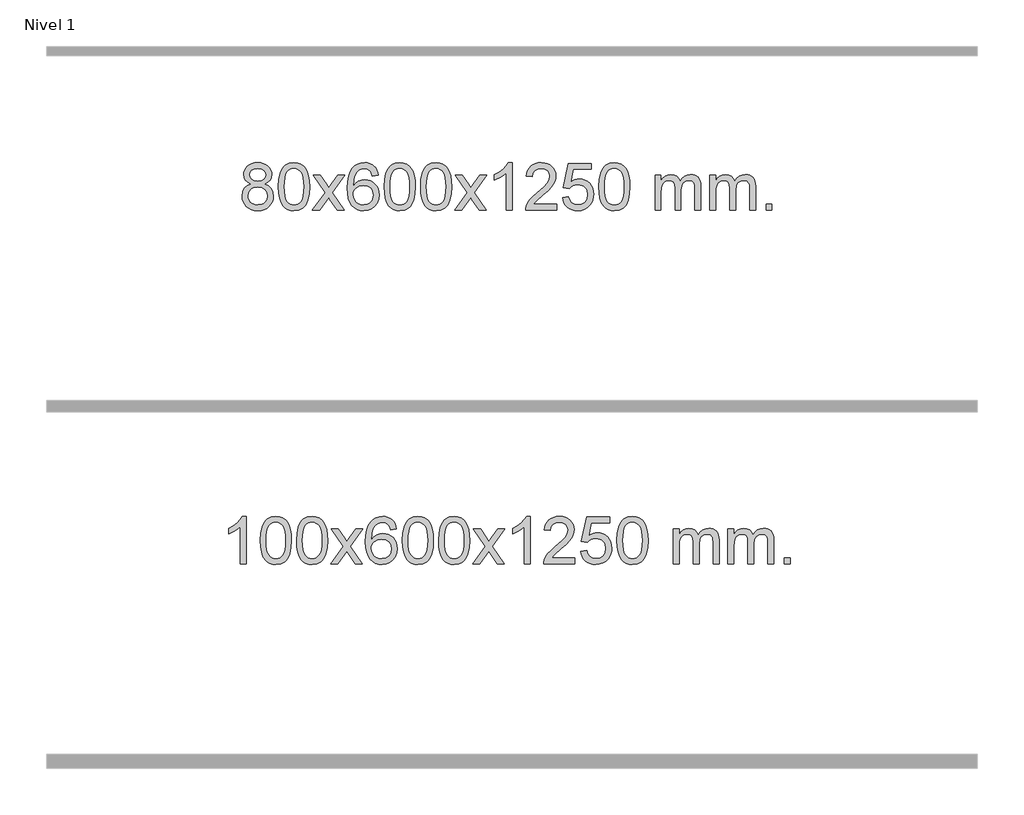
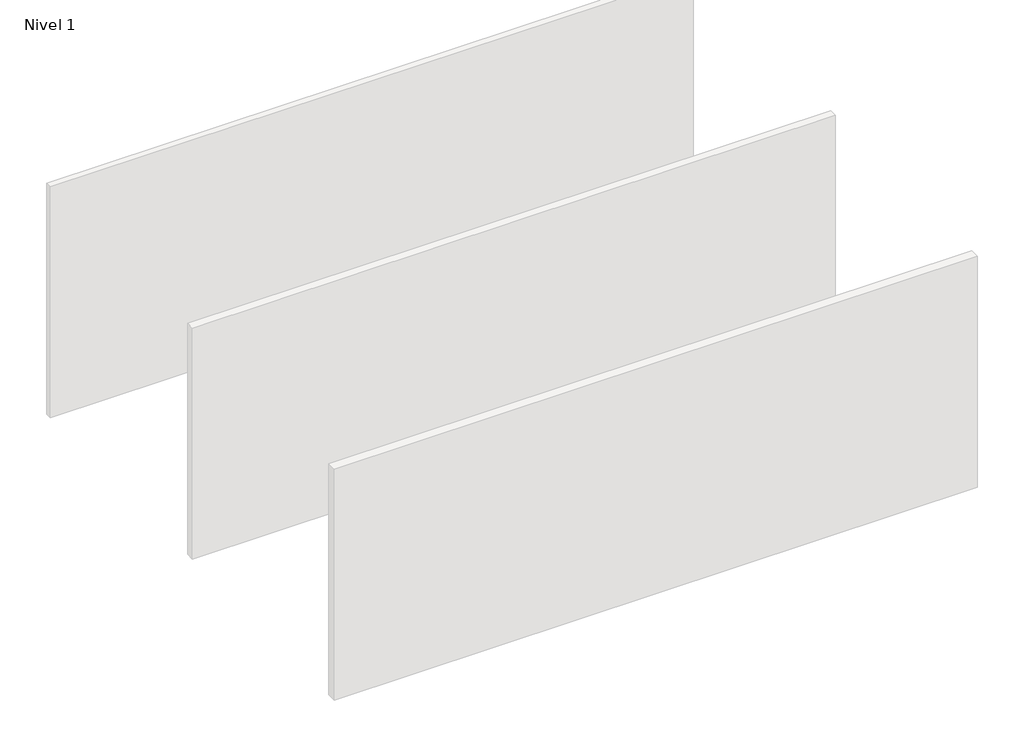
# One storey, part 2 of 4: 2 proxies.
"""IFC4 building model written with IfcOpenShell, lengths in millimetres."""

from ifc_helpers import new_model, si_unit, origin, origin_with_axes, place, context, project, spatial, polyline, outline, extrude, element, save

model = new_model("IFC4")

# Units and contexts
model_context = context("Model", 3, world=origin())
ifc_project = project(units=[si_unit("LENGTHUNIT", "METRE", prefix="MILLI")], contexts=[model_context])

# Site, building, storey
site = spatial("IfcSite", under=ifc_project)
building = spatial("IfcBuilding", under=site)
storey = spatial("IfcBuildingStorey", under=building, Name="Nivel 1", Elevation=0.0)

# Proxies
placement = place(None, origin())
element("IfcBuildingElementProxy", 1, Name="Texto de modelo 1", ObjectType="Texto de modelo 1", at=placement, inside=storey, context=model_context, shape_type="SweptSolid", body=[
    extrude(outline(polyline([(-4836.3117093, -12403.579453), (-4886.5398644, -12403.579453), (-4886.5398644, -12090.4382987), (-4907.5091381, -12107.3976587), (-4934.1192691, -12124.3324932), (-4986.9961745, -12149.6918254), (-4986.9961745, -12102.2105225), (-4947.5469619, -12080.7507395), (-4913.3707246, -12055.219729), (-4886.4294998, -12028.0700378), (-4868.6853249, -12001.7542124), (-4836.3117093, -12001.7542124), (-4836.3117093, -12403.579453)])), origin_with_axes(), (0.0, 0.0, 1.0), 10.0),
    extrude(outline(polyline([(-4717.019841, -12205.9041943), (-4713.3287583, -12141.5861588), (-4702.2555103, -12090.2911459), (-4683.9104614, -12051.2343407), (-4672.0523985, -12036.0009605), (-4658.4039764, -12023.6309284), (-4642.9192101, -12014.0598651), (-4625.5521143, -12007.2233914), (-4585.1709339, -12001.7542124), (-4554.2197954, -12004.991574), (-4526.5060184, -12014.7036586), (-4503.3294527, -12030.5103217), (-4485.989948, -12052.0314184), (-4472.893349, -12079.0830078), (-4462.4455003, -12111.4811488), (-4455.6028952, -12152.6226186), (-4453.3220269, -12205.9041943), (-4456.9763213, -12269.8543477), (-4467.9392048, -12321.0267333), (-4486.173889, -12360.1203266), (-4498.0043609, -12375.3996922), (-4511.6435858, -12387.8341036), (-4527.1467462, -12397.4695462), (-4544.5690244, -12404.3520052), (-4585.1709339, -12409.8579724), (-4612.83566, -12407.4667394), (-4637.3611263, -12400.2930405), (-4658.747333, -12388.3368757), (-4676.9942799, -12371.5982449), (-4694.5054629, -12341.3399508), (-4707.0134507, -12303.6381776), (-4714.5182434, -12258.4929255), (-4717.019841, -12205.9041943)]), holes=[polyline([(-4666.7916859, -12205.8060924), (-4665.3201579, -12249.4706195), (-4660.905574, -12284.8148822), (-4653.5479341, -12311.8388804), (-4643.2472382, -12330.5426142), (-4630.7883013, -12343.2682656), (-4616.9559383, -12352.3580165), (-4601.7501492, -12357.8118671), (-4585.1709339, -12359.6298173), (-4568.5917187, -12357.8057357), (-4553.3859295, -12352.3334911), (-4539.5535665, -12343.2130833), (-4527.0946296, -12330.4445124), (-4516.7939338, -12311.7101217), (-4509.4362939, -12284.6922549), (-4505.0217099, -12249.3909118), (-4503.5501819, -12205.8060924), (-4504.972659, -12163.2973278), (-4509.2400901, -12128.5753989), (-4516.3524754, -12101.6403055), (-4526.3098147, -12082.4920476), (-4538.5602851, -12069.1440625), (-4552.5520637, -12059.6097875), (-4568.2851503, -12053.8892225), (-4585.7595451, -12051.9823675), (-4602.2529212, -12053.6623619), (-4617.201193, -12058.7023452), (-4630.6043603, -12067.1023175), (-4642.4624233, -12078.8622786), (-4653.1064757, -12099.708925), (-4660.7093703, -12127.8151094), (-4665.271107, -12163.1808319), (-4666.7916859, -12205.8060924)])]), origin_with_axes(), (0.0, 0.0, 1.0), 10.0),
    extrude(outline(polyline([(-4409.3723912, -12205.9041943), (-4405.6813085, -12141.5861588), (-4394.6080604, -12090.2911459), (-4376.2630116, -12051.2343407), (-4364.4049486, -12036.0009605), (-4350.7565266, -12023.6309284), (-4335.2717603, -12014.0598651), (-4317.9046644, -12007.2233914), (-4277.5234841, -12001.7542124), (-4246.5723456, -12004.991574), (-4218.8585686, -12014.7036586), (-4195.6820029, -12030.5103217), (-4178.3424982, -12052.0314184), (-4165.2458992, -12079.0830078), (-4154.7980505, -12111.4811488), (-4147.9554454, -12152.6226186), (-4145.674577, -12205.9041943), (-4149.3288715, -12269.8543477), (-4160.291755, -12321.0267333), (-4178.5264392, -12360.1203266), (-4190.356911, -12375.3996922), (-4203.996136, -12387.8341036), (-4219.4992964, -12397.4695462), (-4236.9215746, -12404.3520052), (-4277.5234841, -12409.8579724), (-4305.1882101, -12407.4667394), (-4329.7136765, -12400.2930405), (-4351.0998831, -12388.3368757), (-4369.3468301, -12371.5982449), (-4386.8580131, -12341.3399508), (-4399.3660009, -12303.6381776), (-4406.8707936, -12258.4929255), (-4409.3723912, -12205.9041943)]), holes=[polyline([(-4359.1442361, -12205.8060924), (-4357.6727081, -12249.4706195), (-4353.2581242, -12284.8148822), (-4345.9004843, -12311.8388804), (-4335.5997884, -12330.5426142), (-4323.1408515, -12343.2682656), (-4309.3084885, -12352.3580165), (-4294.1026993, -12357.8118671), (-4277.5234841, -12359.6298173), (-4260.9442688, -12357.8057357), (-4245.7384797, -12352.3334911), (-4231.9061167, -12343.2130833), (-4219.4471798, -12330.4445124), (-4209.1464839, -12311.7101217), (-4201.788844, -12284.6922549), (-4197.3742601, -12249.3909118), (-4195.9027321, -12205.8060924), (-4197.3252091, -12163.2973278), (-4201.5926403, -12128.5753989), (-4208.7050255, -12101.6403055), (-4218.6623649, -12082.4920476), (-4230.9128353, -12069.1440625), (-4244.9046139, -12059.6097875), (-4260.6377005, -12053.8892225), (-4278.1120953, -12051.9823675), (-4294.6054714, -12053.6623619), (-4309.5537431, -12058.7023452), (-4322.9569105, -12067.1023175), (-4334.8149735, -12078.8622786), (-4345.4590259, -12099.708925), (-4353.0619204, -12127.8151094), (-4357.6236572, -12163.1808319), (-4359.1442361, -12205.8060924)])]), origin_with_axes(), (0.0, 0.0, 1.0), 10.0),
    extrude(outline(polyline([(-4120.5604995, -12403.579453), (-4013.2370588, -12255.2494325), (-4114.2819801, -12108.4890419), (-4053.851231, -12108.4890419), (-4005.0946039, -12179.122385), (-3982.3349712, -12212.4770192), (-3962.6164962, -12185.2047007), (-3907.0908404, -12108.4890419), (-3846.6600913, -12108.4890419), (-3952.8063097, -12255.2494325), (-3850.584166, -12403.579453), (-3911.014915, -12403.579453), (-3972.5247846, -12314.4048574), (-3983.8064991, -12298.1199477), (-4060.1297504, -12403.579453), (-4120.5604995, -12403.579453)])), origin_with_axes(), (0.0, 0.0, 1.0), 10.0),
    extrude(outline(polyline([(-3561.7722743, -12108.4890419), (-3612.0004294, -12114.7675613), (-3620.0938332, -12089.874213), (-3631.0321912, -12072.8780648), (-3653.8163495, -12057.2062918), (-3681.3584482, -12051.9823675), (-3704.7066921, -12055.0235253), (-3726.68151, -12064.1469988), (-3745.5538563, -12083.3627017), (-3760.9681119, -12109.8134171), (-3771.3791724, -12147.227016), (-3775.2419333, -12199.3313693), (-3755.0942627, -12175.8237098), (-3730.9489411, -12159.2567573), (-3704.1548691, -12149.434308), (-3676.0609474, -12146.1601582), (-3651.9278886, -12148.398107), (-3629.6587651, -12155.1119534), (-3609.2535771, -12166.3016975), (-3590.7123246, -12181.9673391), (-3575.3042003, -12201.1769106), (-3564.2983973, -12222.9984443), (-3557.6949155, -12247.4319401), (-3555.4937549, -12274.4773982), (-3559.6385587, -12310.4439945), (-3572.0729701, -12343.786366), (-3591.7669196, -12372.0642287), (-3617.6903375, -12392.8372987), (-3648.6660015, -12405.602804), (-3683.5166892, -12409.8579724), (-3713.4592179, -12407.0375437), (-3740.5016103, -12398.5762579), (-3764.6438662, -12384.4741147), (-3785.8859857, -12364.7311143), (-3803.2040307, -12338.5133908), (-3815.5740627, -12304.9870783), (-3822.996082, -12264.1521768), (-3825.4700884, -12216.0086864), (-3822.7232362, -12162.0342663), (-3814.4826795, -12115.9693092), (-3800.7484183, -12077.8138149), (-3781.5204527, -12047.5677835), (-3760.6799377, -12027.5243462), (-3736.516222, -12013.2076052), (-3709.0293056, -12004.6175606), (-3678.2191885, -12001.7542124), (-3655.0855424, -12003.5261773), (-3634.1469255, -12008.8420722), (-3615.4033378, -12017.7018969), (-3598.8547794, -12030.1056515), (-3584.94884, -12045.6364031), (-3574.1331093, -12063.8772186), (-3566.4075874, -12084.8280983), (-3561.7722743, -12108.4890419)]), holes=[polyline([(-3775.2419333, -12273.6925832), (-3772.3356656, -12295.9494439), (-3763.6168623, -12317.2007605), (-3750.0788049, -12335.472233), (-3732.7147747, -12348.7895612), (-3711.7577637, -12356.9197533), (-3687.4407638, -12359.6298173), (-3654.2945961, -12354.0134855), (-3640.3794596, -12346.9930708), (-3628.2362881, -12337.1644901), (-3618.3862477, -12324.9262824), (-3611.3505045, -12310.6769865), (-3605.72191, -12276.1451299), (-3611.2769281, -12242.9989621), (-3618.2207008, -12229.3781312), (-3627.9419825, -12217.725469), (-3640.1219422, -12208.3904634), (-3654.4417489, -12201.7226022), (-3689.500903, -12196.3883133), (-3722.5980198, -12201.7226022), (-3750.2750086, -12217.725469), (-3761.1980382, -12229.2248471), (-3769.0002022, -12242.3858254), (-3773.6815005, -12257.2084042), (-3775.2419333, -12273.6925832)])]), origin_with_axes(), (0.0, 0.0, 1.0), 10.0),
    extrude(outline(polyline([(-3511.5441192, -12205.9041943), (-3507.8530365, -12141.5861588), (-3496.7797885, -12090.2911459), (-3478.4347396, -12051.2343407), (-3466.5766767, -12036.0009605), (-3452.9282546, -12023.6309284), (-3437.4434883, -12014.0598651), (-3420.0763925, -12007.2233914), (-3379.6952121, -12001.7542124), (-3348.7440736, -12004.991574), (-3321.0302966, -12014.7036586), (-3297.8537309, -12030.5103217), (-3280.5142262, -12052.0314184), (-3267.4176272, -12079.0830078), (-3256.9697785, -12111.4811488), (-3250.1271734, -12152.6226186), (-3247.8463051, -12205.9041943), (-3251.5005995, -12269.8543477), (-3262.463483, -12321.0267333), (-3280.6981672, -12360.1203266), (-3292.5286391, -12375.3996922), (-3306.167864, -12387.8341036), (-3321.6710244, -12397.4695462), (-3339.0933026, -12404.3520052), (-3379.6952121, -12409.8579724), (-3407.3599382, -12407.4667394), (-3431.8854045, -12400.2930405), (-3453.2716112, -12388.3368757), (-3471.5185581, -12371.5982449), (-3489.0297411, -12341.3399508), (-3501.5377289, -12303.6381776), (-3509.0425216, -12258.4929255), (-3511.5441192, -12205.9041943)]), holes=[polyline([(-3461.3159641, -12205.8060924), (-3459.8444361, -12249.4706195), (-3455.4298522, -12284.8148822), (-3448.0722123, -12311.8388804), (-3437.7715164, -12330.5426142), (-3425.3125795, -12343.2682656), (-3411.4802165, -12352.3580165), (-3396.2744274, -12357.8118671), (-3379.6952121, -12359.6298173), (-3363.1159969, -12357.8057357), (-3347.9102077, -12352.3334911), (-3334.0778447, -12343.2130833), (-3321.6189078, -12330.4445124), (-3311.318212, -12311.7101217), (-3303.9605721, -12284.6922549), (-3299.5459881, -12249.3909118), (-3298.0744601, -12205.8060924), (-3299.4969372, -12163.2973278), (-3303.7643683, -12128.5753989), (-3310.8767536, -12101.6403055), (-3320.8340929, -12082.4920476), (-3333.0845633, -12069.1440625), (-3347.0763419, -12059.6097875), (-3362.8094286, -12053.8892225), (-3380.2838233, -12051.9823675), (-3396.7771994, -12053.6623619), (-3411.7254712, -12058.7023452), (-3425.1286385, -12067.1023175), (-3436.9867015, -12078.8622786), (-3447.6307539, -12099.708925), (-3455.2336485, -12127.8151094), (-3459.7953852, -12163.1808319), (-3461.3159641, -12205.8060924)])]), origin_with_axes(), (0.0, 0.0, 1.0), 10.0),
    extrude(outline(polyline([(-3203.8966694, -12205.9041943), (-3200.2055867, -12141.5861588), (-3189.1323386, -12090.2911459), (-3170.7872898, -12051.2343407), (-3158.9292268, -12036.0009605), (-3145.2808048, -12023.6309284), (-3129.7960385, -12014.0598651), (-3112.4289426, -12007.2233914), (-3072.0477623, -12001.7542124), (-3041.0966238, -12004.991574), (-3013.3828468, -12014.7036586), (-2990.2062811, -12030.5103217), (-2972.8667764, -12052.0314184), (-2959.7701774, -12079.0830078), (-2949.3223287, -12111.4811488), (-2942.4797236, -12152.6226186), (-2940.1988552, -12205.9041943), (-2943.8531497, -12269.8543477), (-2954.8160332, -12321.0267333), (-2973.0507174, -12360.1203266), (-2984.8811892, -12375.3996922), (-2998.5204142, -12387.8341036), (-3014.0235746, -12397.4695462), (-3031.4458528, -12404.3520052), (-3072.0477623, -12409.8579724), (-3099.7124883, -12407.4667394), (-3124.2379547, -12400.2930405), (-3145.6241613, -12388.3368757), (-3163.8711083, -12371.5982449), (-3181.3822913, -12341.3399508), (-3193.8902791, -12303.6381776), (-3201.3950718, -12258.4929255), (-3203.8966694, -12205.9041943)]), holes=[polyline([(-3153.6685143, -12205.8060924), (-3152.1969863, -12249.4706195), (-3147.7824024, -12284.8148822), (-3140.4247625, -12311.8388804), (-3130.1240666, -12330.5426142), (-3117.6651297, -12343.2682656), (-3103.8327667, -12352.3580165), (-3088.6269775, -12357.8118671), (-3072.0477623, -12359.6298173), (-3055.468547, -12357.8057357), (-3040.2627579, -12352.3334911), (-3026.4303949, -12343.2130833), (-3013.971458, -12330.4445124), (-3003.6707621, -12311.7101217), (-2996.3131222, -12284.6922549), (-2991.8985383, -12249.3909118), (-2990.4270103, -12205.8060924), (-2991.8494873, -12163.2973278), (-2996.1169185, -12128.5753989), (-3003.2293037, -12101.6403055), (-3013.1866431, -12082.4920476), (-3025.4371135, -12069.1440625), (-3039.4288921, -12059.6097875), (-3055.1619787, -12053.8892225), (-3072.6363735, -12051.9823675), (-3089.1297496, -12053.6623619), (-3104.0780213, -12058.7023452), (-3117.4811887, -12067.1023175), (-3129.3392517, -12078.8622786), (-3139.9833041, -12099.708925), (-3147.5861986, -12127.8151094), (-3152.1479354, -12163.1808319), (-3153.6685143, -12205.8060924)])]), origin_with_axes(), (0.0, 0.0, 1.0), 10.0),
    extrude(outline(polyline([(-2915.0847777, -12403.579453), (-2807.761337, -12255.2494325), (-2908.8062583, -12108.4890419), (-2848.3755092, -12108.4890419), (-2799.6188821, -12179.122385), (-2776.8592494, -12212.4770192), (-2757.1407744, -12185.2047007), (-2701.6151186, -12108.4890419), (-2641.1843695, -12108.4890419), (-2747.3305879, -12255.2494325), (-2645.1084442, -12403.579453), (-2705.5391932, -12403.579453), (-2767.0490628, -12314.4048574), (-2778.3307773, -12298.1199477), (-2854.6540286, -12403.579453), (-2915.0847777, -12403.579453)])), origin_with_axes(), (0.0, 0.0, 1.0), 10.0),
    extrude(outline(polyline([(-2425.3602657, -12403.579453), (-2475.5884208, -12403.579453), (-2475.5884208, -12090.4382987), (-2496.5576945, -12107.3976587), (-2523.1678255, -12124.3324932), (-2576.0447309, -12149.6918254), (-2576.0447309, -12102.2105225), (-2536.5955183, -12080.7507395), (-2502.419281, -12055.219729), (-2475.4780562, -12028.0700378), (-2457.7338813, -12001.7542124), (-2425.3602657, -12001.7542124), (-2425.3602657, -12403.579453)])), origin_with_axes(), (0.0, 0.0, 1.0), 10.0),
    extrude(outline(polyline([(-2048.6491026, -12353.3512979), (-2048.6491026, -12403.579453), (-2312.3469168, -12403.579453), (-2311.2432708, -12385.8965918), (-2306.9513142, -12368.9494945), (-2294.5659537, -12341.8856424), (-2276.4416341, -12315.6311307), (-2250.2239105, -12288.1503456), (-2213.5583384, -12257.4076736), (-2159.3570577, -12209.2641831), (-2126.8362894, -12173.7267824), (-2110.5759052, -12144.884834), (-2105.1557771, -12116.8277005), (-2110.2693368, -12091.6768347), (-2125.610016, -12070.7688747), (-2149.1912519, -12056.6789943), (-2179.0264817, -12051.9823675), (-2210.357765, -12056.5686297), (-2234.6992903, -12070.3274163), (-2250.4078515, -12092.1796068), (-2255.8402423, -12121.0460807), (-2306.0683974, -12114.7675613), (-2301.7488496, -12088.838012), (-2293.8915034, -12066.1826125), (-2282.4963586, -12046.8013627), (-2267.5634152, -12030.6942627), (-2249.4360299, -12018.0329907), (-2228.4575592, -12008.989225), (-2204.6280029, -12003.5629655), (-2177.9473612, -12001.7542124), (-2151.0275962, -12003.7653006), (-2127.0692813, -12009.7985654), (-2106.0724164, -12019.8540066), (-2088.0370016, -12033.9316242), (-2073.551648, -12050.9890861), (-2063.2049669, -12069.9840598), (-2056.9969583, -12090.9165453), (-2054.927622, -12113.7865427), (-2057.1594395, -12137.8092369), (-2063.8548918, -12161.4149983), (-2075.7374802, -12185.4254299), (-2093.5307061, -12210.6621347), (-2121.8944079, -12240.7916701), (-2165.4884243, -12279.4805933), (-2223.270423, -12327.795762), (-2245.9319539, -12353.3512979), (-2048.6491026, -12353.3512979)])), origin_with_axes(), (0.0, 0.0, 1.0), 10.0),
    extrude(outline(polyline([(-1998.4209476, -12296.8446235), (-1948.1927925, -12290.5661041), (-1938.9712172, -12320.7201649), (-1922.8825112, -12342.3148381), (-1900.0002511, -12355.3010725), (-1870.3980133, -12359.6298173), (-1851.2681495, -12358.1245668), (-1834.3946287, -12353.6088153), (-1819.7774507, -12346.0825628), (-1807.4166157, -12335.5458094), (-1797.588035, -12322.519721), (-1790.5676203, -12307.5254641), (-1784.9512885, -12271.6324441), (-1790.212001, -12237.8363514), (-1796.7878917, -12223.9181493), (-1805.9941386, -12211.9865099), (-1817.8613987, -12202.4154467), (-1832.4203286, -12195.5789729), (-1869.6131983, -12190.1097939), (-1893.9792491, -12192.2925604), (-1913.7099868, -12198.8408599), (-1929.4675989, -12208.8717757), (-1941.9142731, -12221.5023908), (-1992.1424282, -12215.2238715), (-1948.1927925, -12008.0327318), (-1753.5586916, -12008.0327318), (-1753.5586916, -12058.2608869), (-1907.5786202, -12058.2608869), (-1929.0629287, -12168.919791), (-1911.3371479, -12156.2155994), (-1893.1821715, -12147.1411769), (-1874.5979994, -12141.6965234), (-1855.5846316, -12139.8816388), (-1831.1235446, -12142.1318504), (-1808.6551517, -12148.882485), (-1788.179453, -12160.1335427), (-1769.6964484, -12175.8850234), (-1754.3956231, -12195.1743027), (-1743.4664622, -12217.038756), (-1736.9089656, -12241.4783832), (-1734.7231334, -12268.4931844), (-1736.6913021, -12294.5147042), (-1742.5958081, -12318.7213394), (-1752.4366515, -12341.1130902), (-1766.2138322, -12361.6899565), (-1787.0850041, -12382.7634634), (-1811.4387922, -12397.8159684), (-1839.2751965, -12406.8474714), (-1870.594217, -12409.8579724), (-1896.5145692, -12407.9235262), (-1919.9271925, -12402.1201877), (-1940.8320869, -12392.447957), (-1959.2292524, -12378.9068338), (-1974.536209, -12362.1712688), (-1986.1704771, -12342.915712), (-1994.1320566, -12321.1401636), (-1998.4209476, -12296.8446235)])), origin_with_axes(), (0.0, 0.0, 1.0), 10.0),
    extrude(outline(polyline([(-1690.7734977, -12205.9041943), (-1687.0824151, -12141.5861588), (-1676.009167, -12090.2911459), (-1657.6641182, -12051.2343407), (-1645.8060552, -12036.0009605), (-1632.1576332, -12023.6309284), (-1616.6728669, -12014.0598651), (-1599.305771, -12007.2233914), (-1558.9245907, -12001.7542124), (-1527.9734521, -12004.991574), (-1500.2596752, -12014.7036586), (-1477.0831095, -12030.5103217), (-1459.7436048, -12052.0314184), (-1446.6470057, -12079.0830078), (-1436.1991571, -12111.4811488), (-1429.356552, -12152.6226186), (-1427.0756836, -12205.9041943), (-1430.7299781, -12269.8543477), (-1441.6928615, -12321.0267333), (-1459.9275458, -12360.1203266), (-1471.7580176, -12375.3996922), (-1485.3972426, -12387.8341036), (-1500.900403, -12397.4695462), (-1518.3226811, -12404.3520052), (-1558.9245907, -12409.8579724), (-1586.5893167, -12407.4667394), (-1611.1147831, -12400.2930405), (-1632.5009897, -12388.3368757), (-1650.7479367, -12371.5982449), (-1668.2591196, -12341.3399508), (-1680.7671075, -12303.6381776), (-1688.2719002, -12258.4929255), (-1690.7734977, -12205.9041943)]), holes=[polyline([(-1640.5453427, -12205.8060924), (-1639.0738147, -12249.4706195), (-1634.6592307, -12284.8148822), (-1627.3015908, -12311.8388804), (-1617.000895, -12330.5426142), (-1604.5419581, -12343.2682656), (-1590.7095951, -12352.3580165), (-1575.5038059, -12357.8118671), (-1558.9245907, -12359.6298173), (-1542.3453754, -12357.8057357), (-1527.1395863, -12352.3334911), (-1513.3072233, -12343.2130833), (-1500.8482864, -12330.4445124), (-1490.5475905, -12311.7101217), (-1483.1899506, -12284.6922549), (-1478.7753667, -12249.3909118), (-1477.3038387, -12205.8060924), (-1478.7263157, -12163.2973278), (-1482.9937469, -12128.5753989), (-1490.1061321, -12101.6403055), (-1500.0634714, -12082.4920476), (-1512.3139419, -12069.1440625), (-1526.3057204, -12059.6097875), (-1542.0388071, -12053.8892225), (-1559.5132019, -12051.9823675), (-1576.006578, -12053.6623619), (-1590.9548497, -12058.7023452), (-1604.3580171, -12067.1023175), (-1616.2160801, -12078.8622786), (-1626.8601324, -12099.708925), (-1634.463027, -12127.8151094), (-1639.0247638, -12163.1808319), (-1640.5453427, -12205.8060924)])]), origin_with_axes(), (0.0, 0.0, 1.0), 10.0),
    extrude(outline(polyline([(-1213.6060245, -12403.579453), (-1213.6060245, -12108.4890419), (-1163.3778695, -12108.4890419), (-1163.3778695, -12157.0494653), (-1148.2701822, -12134.7435537), (-1128.8460128, -12117.2691589), (-1105.767549, -12105.9751816), (-1079.6969783, -12102.2105225), (-1051.7624721, -12106.048758), (-1029.3707213, -12117.5634645), (-1012.6443533, -12135.9943524), (-1001.7059953, -12160.5811324), (-983.3977347, -12135.0439906), (-962.5143001, -12116.803175), (-939.0556915, -12105.8586857), (-913.021909, -12102.2105225), (-892.9140923, -12103.7280358), (-875.2649536, -12108.2805755), (-860.0744928, -12115.8681416), (-847.3427101, -12126.4907342), (-837.2780719, -12140.2709806), (-830.0890446, -12157.3315082), (-825.7756282, -12177.6723168), (-824.3378227, -12201.2934066), (-824.3378227, -12403.579453), (-874.5659778, -12403.579453), (-874.5659778, -12222.875817), (-875.7309374, -12197.8230531), (-879.2258164, -12180.9372695), (-885.7741159, -12169.3735121), (-896.0993372, -12160.2868268), (-909.3798773, -12154.4007149), (-924.7941329, -12152.4386776), (-952.0051378, -12157.4663982), (-974.1884221, -12172.54956), (-982.7937951, -12184.1194488), (-988.9404901, -12198.7182326), (-993.8578461, -12237.0024856), (-993.8578461, -12403.579453), (-1044.0860012, -12403.579453), (-1044.0860012, -12217.2840106), (-1046.9922689, -12188.8835206), (-1055.7110722, -12168.6254854), (-1071.0517514, -12156.4853796), (-1093.8236469, -12152.4386776), (-1113.1742398, -12155.1364789), (-1131.0042539, -12163.2298828), (-1145.7195337, -12176.5226856), (-1155.725924, -12194.8186835), (-1161.4648831, -12220.2025411), (-1163.3778695, -12254.7589232), (-1163.3778695, -12403.579453), (-1213.6060245, -12403.579453)])), origin_with_axes(), (0.0, 0.0, 1.0), 10.0),
    extrude(outline(polyline([(-748.9955901, -12403.579453), (-748.9955901, -12108.4890419), (-698.767435, -12108.4890419), (-698.767435, -12157.0494653), (-683.6597477, -12134.7435537), (-664.2355784, -12117.2691589), (-641.1571146, -12105.9751816), (-615.0865438, -12102.2105225), (-587.1520377, -12106.048758), (-564.7602869, -12117.5634645), (-548.0339189, -12135.9943524), (-537.0955609, -12160.5811324), (-518.7873002, -12135.0439906), (-497.9038656, -12116.803175), (-474.4452571, -12105.8586857), (-448.4114746, -12102.2105225), (-428.3036578, -12103.7280358), (-410.6545191, -12108.2805755), (-395.4640584, -12115.8681416), (-382.7322757, -12126.4907342), (-372.6676374, -12140.2709806), (-365.4786101, -12157.3315082), (-361.1651937, -12177.6723168), (-359.7273883, -12201.2934066), (-359.7273883, -12403.579453), (-409.9555433, -12403.579453), (-409.9555433, -12222.875817), (-411.120503, -12197.8230531), (-414.6153819, -12180.9372695), (-421.1636815, -12169.3735121), (-431.4889028, -12160.2868268), (-444.7694428, -12154.4007149), (-460.1836984, -12152.4386776), (-487.3947033, -12157.4663982), (-509.5779876, -12172.54956), (-518.1833606, -12184.1194488), (-524.3300556, -12198.7182326), (-529.2474116, -12237.0024856), (-529.2474116, -12403.579453), (-579.4755667, -12403.579453), (-579.4755667, -12217.2840106), (-582.3818345, -12188.8835206), (-591.1006378, -12168.6254854), (-606.441317, -12156.4853796), (-629.2132125, -12152.4386776), (-648.5638054, -12155.1364789), (-666.3938194, -12163.2298828), (-681.1090992, -12176.5226856), (-691.1154895, -12194.8186835), (-696.8544486, -12220.2025411), (-698.767435, -12254.7589232), (-698.767435, -12403.579453), (-748.9955901, -12403.579453)])), origin_with_axes(), (0.0, 0.0, 1.0), 10.0),
    extrude(outline(polyline([(-271.8281169, -12403.579453), (-271.8281169, -12353.3512979), (-221.5999618, -12353.3512979), (-221.5999618, -12403.579453), (-271.8281169, -12403.579453)])), origin_with_axes(), (0.0, 0.0, 1.0), 10.0),
])
element("IfcBuildingElementProxy", 2, Name="Texto de modelo 1", ObjectType="Texto de modelo 1", at=placement, inside=storey, context=model_context, shape_type="SweptSolid", body=[
    extrude(outline(polyline([(-4797.6595743, -9178.2616447), (-4824.5517482, -9165.0178929), (-4843.4240945, -9147.0652515), (-4854.570919, -9124.7716026), (-4858.2865271, -9098.5048281), (-4856.2631762, -9078.0199324), (-4850.1931233, -9059.2395565), (-4840.0763684, -9042.1637006), (-4825.9129116, -9026.7923645), (-4808.3833345, -9014.088173), (-4788.1682189, -9005.0137504), (-4765.2675647, -8999.5690969), (-4739.6813719, -8997.7542124), (-4713.9725518, -8999.6120165), (-4690.9002193, -9005.1854287), (-4670.4643745, -9014.4744491), (-4652.6650173, -9027.4790776), (-4638.2440431, -9043.1508506), (-4627.9433472, -9060.4413044), (-4621.7629297, -9079.3504389), (-4619.7027905, -9099.8782543), (-4623.3693478, -9125.2989001), (-4634.3690194, -9147.2124043), (-4652.8244328, -9165.0546811), (-4678.8582154, -9178.2616447), (-4647.943865, -9194.1909351), (-4625.4417497, -9217.6495436), (-4611.7197512, -9247.5092989), (-4607.1457518, -9282.6420295), (-4609.4143574, -9307.6947933), (-4616.2201743, -9330.6628926), (-4627.5632025, -9351.5463272), (-4643.443442, -9370.3450971), (-4663.0270268, -9385.88198), (-4685.4800913, -9396.9797536), (-4710.8026353, -9403.6384177), (-4738.9946588, -9405.8579724), (-4767.1866824, -9403.6292206), (-4792.5092264, -9396.9429654), (-4814.9622908, -9385.7992066), (-4834.5458757, -9370.1979443), (-4850.4261152, -9351.26735), (-4861.7691434, -9330.135595), (-4868.5749603, -9306.8026795), (-4870.8435659, -9281.2686033), (-4866.0856254, -9244.7747094), (-4851.811804, -9214.7555386), (-4828.7578657, -9192.2411605), (-4797.6595743, -9178.2616447)]), holes=[polyline([(-4808.0583721, -9099.9763561), (-4803.6069999, -9121.902123), (-4790.2528835, -9139.413306), (-4768.3884303, -9150.8912243), (-4738.4060477, -9154.717197), (-4709.1226408, -9150.9157497), (-4687.5892814, -9139.5114079), (-4674.3455296, -9122.5888361), (-4669.9309456, -9102.232699), (-4674.4926824, -9081.1040098), (-4688.1778926, -9063.629615), (-4710.0055576, -9051.8941794), (-4738.9946588, -9047.9823675), (-4768.1677011, -9051.8083402), (-4789.9585779, -9063.2862585), (-4803.5334235, -9080.1107284), (-4808.0583721, -9099.9763561)]), polyline([(-4820.6154108, -9279.5027698), (-4818.5184835, -9298.7184726), (-4812.2277013, -9317.3210389), (-4800.614893, -9333.5446349), (-4782.5518871, -9345.623427), (-4760.9204258, -9353.1282197), (-4738.6022514, -9355.6298173), (-4704.4137513, -9350.3691048), (-4690.5200746, -9343.7932141), (-4678.7601135, -9334.5869672), (-4662.7204585, -9310.6869002), (-4657.3739068, -9281.0723996), (-4662.8921368, -9250.9551269), (-4679.4468266, -9226.5277625), (-4691.5256187, -9217.0854579), (-4705.6890755, -9210.3409547), (-4740.2699831, -9204.9453521), (-4773.9802366, -9210.2673783), (-4787.7175634, -9216.919911), (-4799.376357, -9226.2334569), (-4815.3056474, -9250.1948375), (-4820.6154108, -9279.5027698)])]), origin_with_axes(), (0.0, 0.0, 1.0), 10.0),
    extrude(outline(polyline([(-4563.1961161, -9201.9041943), (-4559.5050334, -9137.5861588), (-4548.4317853, -9086.2911459), (-4530.0867365, -9047.2343407), (-4518.2286735, -9032.0009605), (-4504.5802515, -9019.6309284), (-4489.0954852, -9010.0598651), (-4471.7283893, -9003.2233914), (-4431.347209, -8997.7542124), (-4400.3960705, -9000.991574), (-4372.6822935, -9010.7036586), (-4349.5057278, -9026.5103217), (-4332.1662231, -9048.0314184), (-4319.0696241, -9075.0830078), (-4308.6217754, -9107.4811488), (-4301.7791703, -9148.6226186), (-4299.4983019, -9201.9041943), (-4303.1525964, -9265.8543477), (-4314.1154799, -9317.0267333), (-4332.3501641, -9356.1203266), (-4344.1806359, -9371.3996922), (-4357.8198609, -9383.8341036), (-4373.3230213, -9393.4695462), (-4390.7452995, -9400.3520052), (-4431.347209, -9405.8579724), (-4459.011935, -9403.4667394), (-4483.5374014, -9396.2930405), (-4504.923608, -9384.3368757), (-4523.170555, -9367.5982449), (-4540.681738, -9337.3399508), (-4553.1897258, -9299.6381776), (-4560.6945185, -9254.4929255), (-4563.1961161, -9201.9041943)]), holes=[polyline([(-4512.967961, -9201.8060924), (-4511.496433, -9245.4706195), (-4507.0818491, -9280.8148822), (-4499.7242092, -9307.8388804), (-4489.4235133, -9326.5426142), (-4476.9645764, -9339.2682656), (-4463.1322134, -9348.3580165), (-4447.9264243, -9353.8118671), (-4431.347209, -9355.6298173), (-4414.7679938, -9353.8057357), (-4399.5622046, -9348.3334911), (-4385.7298416, -9339.2130833), (-4373.2709047, -9326.4445124), (-4362.9702088, -9307.7101217), (-4355.6125689, -9280.6922549), (-4351.197985, -9245.3909118), (-4349.726457, -9201.8060924), (-4351.1489341, -9159.2973278), (-4355.4163652, -9124.5753989), (-4362.5287504, -9097.6403055), (-4372.4860898, -9078.4920476), (-4384.7365602, -9065.1440625), (-4398.7283388, -9055.6097875), (-4414.4614254, -9049.8892225), (-4431.9358202, -9047.9823675), (-4448.4291963, -9049.6623619), (-4463.3774681, -9054.7023452), (-4476.7806354, -9063.1023175), (-4488.6386984, -9074.8622786), (-4499.2827508, -9095.708925), (-4506.8856454, -9123.8151094), (-4511.4473821, -9159.1808319), (-4512.967961, -9201.8060924)])]), origin_with_axes(), (0.0, 0.0, 1.0), 10.0),
    extrude(outline(polyline([(-4274.3842244, -9399.579453), (-4167.0607837, -9251.2494325), (-4268.105705, -9104.4890419), (-4207.6749559, -9104.4890419), (-4158.9183288, -9175.122385), (-4136.1586961, -9208.4770192), (-4116.4402211, -9181.2047007), (-4060.9145653, -9104.4890419), (-4000.4838163, -9104.4890419), (-4106.6300346, -9251.2494325), (-4004.4078909, -9399.579453), (-4064.8386399, -9399.579453), (-4126.3485095, -9310.4048574), (-4137.6302241, -9294.1199477), (-4213.9534753, -9399.579453), (-4274.3842244, -9399.579453)])), origin_with_axes(), (0.0, 0.0, 1.0), 10.0),
    extrude(outline(polyline([(-3715.5959992, -9104.4890419), (-3765.8241543, -9110.7675613), (-3773.9175582, -9085.874213), (-3784.8559162, -9068.8780648), (-3807.6400744, -9053.2062918), (-3835.1821731, -9047.9823675), (-3858.5304171, -9051.0235253), (-3880.5052349, -9060.1469988), (-3899.3775813, -9079.3627017), (-3914.7918368, -9105.8134171), (-3925.2028973, -9143.227016), (-3929.0656583, -9195.3313693), (-3908.9179877, -9171.8237098), (-3884.772666, -9155.2567573), (-3857.9785941, -9145.434308), (-3829.8846724, -9142.1601582), (-3805.7516135, -9144.398107), (-3783.48249, -9151.1119534), (-3763.077302, -9162.3016975), (-3744.5360495, -9177.9673391), (-3729.1279252, -9197.1769106), (-3718.1221222, -9218.9984443), (-3711.5186404, -9243.4319401), (-3709.3174798, -9270.4773982), (-3713.4622836, -9306.4439945), (-3725.8966951, -9339.786366), (-3745.5906445, -9368.0642287), (-3771.5140625, -9388.8372987), (-3802.4897265, -9401.602804), (-3837.3404141, -9405.8579724), (-3867.2829429, -9403.0375437), (-3894.3253352, -9394.5762579), (-3918.4675911, -9380.4741147), (-3939.7097107, -9360.7311143), (-3957.0277556, -9334.5133908), (-3969.3977877, -9300.9870783), (-3976.8198069, -9260.1521768), (-3979.2938133, -9212.0086864), (-3976.5469611, -9158.0342663), (-3968.3064044, -9111.9693092), (-3954.5721433, -9073.8138149), (-3935.3441776, -9043.5677835), (-3914.5036626, -9023.5243462), (-3890.3399469, -9009.2076052), (-3862.8530305, -9000.6175606), (-3832.0429134, -8997.7542124), (-3808.9092673, -8999.5261773), (-3787.9706504, -9004.8420722), (-3769.2270627, -9013.7018969), (-3752.6785043, -9026.1056515), (-3738.7725649, -9041.6364031), (-3727.9568342, -9059.8772186), (-3720.2313123, -9080.8280983), (-3715.5959992, -9104.4890419)]), holes=[polyline([(-3929.0656583, -9269.6925832), (-3926.1593905, -9291.9494439), (-3917.4405872, -9313.2007605), (-3903.9025298, -9331.472233), (-3886.5384996, -9344.7895612), (-3865.5814886, -9352.9197533), (-3841.2644887, -9355.6298173), (-3808.118321, -9350.0134855), (-3794.2031845, -9342.9930708), (-3782.060013, -9333.1644901), (-3772.2099726, -9320.9262824), (-3765.1742294, -9306.6769865), (-3759.5456349, -9272.1451299), (-3765.100653, -9238.9989621), (-3772.0444257, -9225.3781312), (-3781.7657074, -9213.725469), (-3793.9456671, -9204.3904634), (-3808.2654738, -9197.7226022), (-3843.3246279, -9192.3883133), (-3876.4217448, -9197.7226022), (-3904.0987335, -9213.725469), (-3915.0217631, -9225.2248471), (-3922.8239271, -9238.3858254), (-3927.5052255, -9253.2084042), (-3929.0656583, -9269.6925832)])]), origin_with_axes(), (0.0, 0.0, 1.0), 10.0),
    extrude(outline(polyline([(-3665.3678441, -9201.9041943), (-3661.6767614, -9137.5861588), (-3650.6035134, -9086.2911459), (-3632.2584646, -9047.2343407), (-3620.4004016, -9032.0009605), (-3606.7519796, -9019.6309284), (-3591.2672132, -9010.0598651), (-3573.9001174, -9003.2233914), (-3533.518937, -8997.7542124), (-3502.5677985, -9000.991574), (-3474.8540216, -9010.7036586), (-3451.6774559, -9026.5103217), (-3434.3379511, -9048.0314184), (-3421.2413521, -9075.0830078), (-3410.7935035, -9107.4811488), (-3403.9508983, -9148.6226186), (-3401.67003, -9201.9041943), (-3405.3243245, -9265.8543477), (-3416.2872079, -9317.0267333), (-3434.5218921, -9356.1203266), (-3446.352364, -9371.3996922), (-3459.9915889, -9383.8341036), (-3475.4947494, -9393.4695462), (-3492.9170275, -9400.3520052), (-3533.518937, -9405.8579724), (-3561.1836631, -9403.4667394), (-3585.7091294, -9396.2930405), (-3607.0953361, -9384.3368757), (-3625.342283, -9367.5982449), (-3642.853466, -9337.3399508), (-3655.3614539, -9299.6381776), (-3662.8662466, -9254.4929255), (-3665.3678441, -9201.9041943)]), holes=[polyline([(-3615.139689, -9201.8060924), (-3613.6681611, -9245.4706195), (-3609.2535771, -9280.8148822), (-3601.8959372, -9307.8388804), (-3591.5952414, -9326.5426142), (-3579.1363044, -9339.2682656), (-3565.3039414, -9348.3580165), (-3550.0981523, -9353.8118671), (-3533.518937, -9355.6298173), (-3516.9397218, -9353.8057357), (-3501.7339327, -9348.3334911), (-3487.9015696, -9339.2130833), (-3475.4426327, -9326.4445124), (-3465.1419369, -9307.7101217), (-3457.784297, -9280.6922549), (-3453.369713, -9245.3909118), (-3451.8981851, -9201.8060924), (-3453.3206621, -9159.2973278), (-3457.5880932, -9124.5753989), (-3464.7004785, -9097.6403055), (-3474.6578178, -9078.4920476), (-3486.9082883, -9065.1440625), (-3500.9000668, -9055.6097875), (-3516.6331535, -9049.8892225), (-3534.1075482, -9047.9823675), (-3550.6009244, -9049.6623619), (-3565.5491961, -9054.7023452), (-3578.9523635, -9063.1023175), (-3590.8104264, -9074.8622786), (-3601.4544788, -9095.708925), (-3609.0573734, -9123.8151094), (-3613.6191101, -9159.1808319), (-3615.139689, -9201.8060924)])]), origin_with_axes(), (0.0, 0.0, 1.0), 10.0),
    extrude(outline(polyline([(-3357.7203943, -9201.9041943), (-3354.0293116, -9137.5861588), (-3342.9560635, -9086.2911459), (-3324.6110147, -9047.2343407), (-3312.7529517, -9032.0009605), (-3299.1045297, -9019.6309284), (-3283.6197634, -9010.0598651), (-3266.2526676, -9003.2233914), (-3225.8714872, -8997.7542124), (-3194.9203487, -9000.991574), (-3167.2065717, -9010.7036586), (-3144.030006, -9026.5103217), (-3126.6905013, -9048.0314184), (-3113.5939023, -9075.0830078), (-3103.1460536, -9107.4811488), (-3096.3034485, -9148.6226186), (-3094.0225801, -9201.9041943), (-3097.6768746, -9265.8543477), (-3108.6397581, -9317.0267333), (-3126.8744423, -9356.1203266), (-3138.7049141, -9371.3996922), (-3152.3441391, -9383.8341036), (-3167.8472995, -9393.4695462), (-3185.2695777, -9400.3520052), (-3225.8714872, -9405.8579724), (-3253.5362133, -9403.4667394), (-3278.0616796, -9396.2930405), (-3299.4478862, -9384.3368757), (-3317.6948332, -9367.5982449), (-3335.2060162, -9337.3399508), (-3347.714004, -9299.6381776), (-3355.2187967, -9254.4929255), (-3357.7203943, -9201.9041943)]), holes=[polyline([(-3307.4922392, -9201.8060924), (-3306.0207112, -9245.4706195), (-3301.6061273, -9280.8148822), (-3294.2484874, -9307.8388804), (-3283.9477915, -9326.5426142), (-3271.4888546, -9339.2682656), (-3257.6564916, -9348.3580165), (-3242.4507025, -9353.8118671), (-3225.8714872, -9355.6298173), (-3209.292272, -9353.8057357), (-3194.0864828, -9348.3334911), (-3180.2541198, -9339.2130833), (-3167.7951829, -9326.4445124), (-3157.494487, -9307.7101217), (-3150.1368471, -9280.6922549), (-3145.7222632, -9245.3909118), (-3144.2507352, -9201.8060924), (-3145.6732123, -9159.2973278), (-3149.9406434, -9124.5753989), (-3157.0530287, -9097.6403055), (-3167.010368, -9078.4920476), (-3179.2608384, -9065.1440625), (-3193.252617, -9055.6097875), (-3208.9857036, -9049.8892225), (-3226.4600984, -9047.9823675), (-3242.9534745, -9049.6623619), (-3257.9017463, -9054.7023452), (-3271.3049136, -9063.1023175), (-3283.1629766, -9074.8622786), (-3293.807029, -9095.708925), (-3301.4099236, -9123.8151094), (-3305.9716603, -9159.1808319), (-3307.4922392, -9201.8060924)])]), origin_with_axes(), (0.0, 0.0, 1.0), 10.0),
    extrude(outline(polyline([(-3068.9085026, -9399.579453), (-2961.5850619, -9251.2494325), (-3062.6299832, -9104.4890419), (-3002.1992341, -9104.4890419), (-2953.4426071, -9175.122385), (-2930.6829743, -9208.4770192), (-2910.9644993, -9181.2047007), (-2855.4388435, -9104.4890419), (-2795.0080945, -9104.4890419), (-2901.1543128, -9251.2494325), (-2798.9321691, -9399.579453), (-2859.3629182, -9399.579453), (-2920.8727877, -9310.4048574), (-2932.1545023, -9294.1199477), (-3008.4777535, -9399.579453), (-3068.9085026, -9399.579453)])), origin_with_axes(), (0.0, 0.0, 1.0), 10.0),
    extrude(outline(polyline([(-2579.1839906, -9399.579453), (-2629.4121457, -9399.579453), (-2629.4121457, -9086.4382987), (-2650.3814194, -9103.3976587), (-2676.9915504, -9120.3324932), (-2729.8684559, -9145.6918254), (-2729.8684559, -9098.2105225), (-2690.4192432, -9076.7507395), (-2656.2430059, -9051.219729), (-2629.3017811, -9024.0700378), (-2611.5576062, -8997.7542124), (-2579.1839906, -8997.7542124), (-2579.1839906, -9399.579453)])), origin_with_axes(), (0.0, 0.0, 1.0), 10.0),
    extrude(outline(polyline([(-2202.4728276, -9349.3512979), (-2202.4728276, -9399.579453), (-2466.1706417, -9399.579453), (-2465.0669957, -9381.8965918), (-2460.7750391, -9364.9494945), (-2448.3896786, -9337.8856424), (-2430.265359, -9311.6311307), (-2404.0476355, -9284.1503456), (-2367.3820633, -9253.4076736), (-2313.1807826, -9205.2641831), (-2280.6600143, -9169.7267824), (-2264.3996301, -9140.884834), (-2258.979502, -9112.8277005), (-2264.0930618, -9087.6768347), (-2279.433741, -9066.7688747), (-2303.0149768, -9052.6789943), (-2332.8502067, -9047.9823675), (-2364.1814899, -9052.5686297), (-2388.5230153, -9066.3274163), (-2404.2315765, -9088.1796068), (-2409.6639672, -9117.0460807), (-2459.8921223, -9110.7675613), (-2455.5725746, -9084.838012), (-2447.7152283, -9062.1826125), (-2436.3200835, -9042.8013627), (-2421.3871402, -9026.6942627), (-2403.2597548, -9014.0329907), (-2382.2812841, -9004.989225), (-2358.4517278, -8999.5629655), (-2331.7710861, -8997.7542124), (-2304.8513211, -8999.7653006), (-2280.8930062, -9005.7985654), (-2259.8961413, -9015.8540066), (-2241.8607265, -9029.9316242), (-2227.375373, -9046.9890861), (-2217.0286918, -9065.9840598), (-2210.8206832, -9086.9165453), (-2208.7513469, -9109.7865427), (-2210.9831644, -9133.8092369), (-2217.6786167, -9157.4149983), (-2229.5612051, -9181.4254299), (-2247.354431, -9206.6621347), (-2275.7181328, -9236.7916701), (-2319.3121492, -9275.4805933), (-2377.0941479, -9323.795762), (-2399.7556788, -9349.3512979), (-2202.4728276, -9349.3512979)])), origin_with_axes(), (0.0, 0.0, 1.0), 10.0),
    extrude(outline(polyline([(-2152.2446725, -9292.8446235), (-2102.0165174, -9286.5661041), (-2092.7949421, -9316.7201649), (-2076.7062361, -9338.3148381), (-2053.823976, -9351.3010725), (-2024.2217382, -9355.6298173), (-2005.0918744, -9354.1245668), (-1988.2183536, -9349.6088153), (-1973.6011756, -9342.0825628), (-1961.2403406, -9331.5458094), (-1951.41176, -9318.519721), (-1944.3913452, -9303.5254641), (-1938.7750134, -9267.6324441), (-1944.035726, -9233.8363514), (-1950.6116166, -9219.9181493), (-1959.8178635, -9207.9865099), (-1971.6851236, -9198.4154467), (-1986.2440535, -9191.5789729), (-2023.4369232, -9186.1097939), (-2047.8029741, -9188.2925604), (-2067.5337117, -9194.8408599), (-2083.2913239, -9204.8717757), (-2095.737998, -9217.5023908), (-2145.9661531, -9211.2238715), (-2102.0165174, -9004.0327318), (-1907.3824165, -9004.0327318), (-1907.3824165, -9054.2608869), (-2061.4023451, -9054.2608869), (-2082.8866537, -9164.919791), (-2065.1608729, -9152.2155994), (-2047.0058964, -9143.1411769), (-2028.4217243, -9137.6965234), (-2009.4083565, -9135.8816388), (-1984.9472695, -9138.1318504), (-1962.4788766, -9144.882485), (-1942.0031779, -9156.1335427), (-1923.5201734, -9171.8850234), (-1908.219348, -9191.1743027), (-1897.2901871, -9213.038756), (-1890.7326905, -9237.4783832), (-1888.5468583, -9264.4931844), (-1890.515027, -9290.5147042), (-1896.419533, -9314.7213394), (-1906.2603764, -9337.1130902), (-1920.0375571, -9357.6899565), (-1940.908729, -9378.7634634), (-1965.2625171, -9393.8159684), (-1993.0989214, -9402.8474714), (-2024.4179419, -9405.8579724), (-2050.3382941, -9403.9235262), (-2073.7509175, -9398.1201877), (-2094.6558118, -9388.447957), (-2113.0529773, -9374.9068338), (-2128.359934, -9358.1712688), (-2139.9942021, -9338.915712), (-2147.9557816, -9317.1401636), (-2152.2446725, -9292.8446235)])), origin_with_axes(), (0.0, 0.0, 1.0), 10.0),
    extrude(outline(polyline([(-1844.5972227, -9201.9041943), (-1840.90614, -9137.5861588), (-1829.8328919, -9086.2911459), (-1811.4878431, -9047.2343407), (-1799.6297801, -9032.0009605), (-1785.9813581, -9019.6309284), (-1770.4965918, -9010.0598651), (-1753.1294959, -9003.2233914), (-1712.7483156, -8997.7542124), (-1681.7971771, -9000.991574), (-1654.0834001, -9010.7036586), (-1630.9068344, -9026.5103217), (-1613.5673297, -9048.0314184), (-1600.4707307, -9075.0830078), (-1590.022882, -9107.4811488), (-1583.1802769, -9148.6226186), (-1580.8994085, -9201.9041943), (-1584.553703, -9265.8543477), (-1595.5165865, -9317.0267333), (-1613.7512707, -9356.1203266), (-1625.5817425, -9371.3996922), (-1639.2209675, -9383.8341036), (-1654.7241279, -9393.4695462), (-1672.1464061, -9400.3520052), (-1712.7483156, -9405.8579724), (-1740.4130416, -9403.4667394), (-1764.938508, -9396.2930405), (-1786.3247146, -9384.3368757), (-1804.5716616, -9367.5982449), (-1822.0828446, -9337.3399508), (-1834.5908324, -9299.6381776), (-1842.0956251, -9254.4929255), (-1844.5972227, -9201.9041943)]), holes=[polyline([(-1794.3690676, -9201.8060924), (-1792.8975396, -9245.4706195), (-1788.4829557, -9280.8148822), (-1781.1253158, -9307.8388804), (-1770.8246199, -9326.5426142), (-1758.365683, -9339.2682656), (-1744.53332, -9348.3580165), (-1729.3275308, -9353.8118671), (-1712.7483156, -9355.6298173), (-1696.1691003, -9353.8057357), (-1680.9633112, -9348.3334911), (-1667.1309482, -9339.2130833), (-1654.6720113, -9326.4445124), (-1644.3713154, -9307.7101217), (-1637.0136755, -9280.6922549), (-1632.5990916, -9245.3909118), (-1631.1275636, -9201.8060924), (-1632.5500406, -9159.2973278), (-1636.8174718, -9124.5753989), (-1643.929857, -9097.6403055), (-1653.8871964, -9078.4920476), (-1666.1376668, -9065.1440625), (-1680.1294453, -9055.6097875), (-1695.862532, -9049.8892225), (-1713.3369268, -9047.9823675), (-1729.8303029, -9049.6623619), (-1744.7785746, -9054.7023452), (-1758.181742, -9063.1023175), (-1770.039805, -9074.8622786), (-1780.6838574, -9095.708925), (-1788.2867519, -9123.8151094), (-1792.8484887, -9159.1808319), (-1794.3690676, -9201.8060924)])]), origin_with_axes(), (0.0, 0.0, 1.0), 10.0),
    extrude(outline(polyline([(-1367.4297494, -9399.579453), (-1367.4297494, -9104.4890419), (-1317.2015944, -9104.4890419), (-1317.2015944, -9153.0494653), (-1302.0939071, -9130.7435537), (-1282.6697378, -9113.2691589), (-1259.5912739, -9101.9751816), (-1233.5207032, -9098.2105225), (-1205.586197, -9102.048758), (-1183.1944463, -9113.5634645), (-1166.4680782, -9131.9943524), (-1155.5297202, -9156.5811324), (-1137.2214596, -9131.0439906), (-1116.338025, -9112.803175), (-1092.8794164, -9101.8586857), (-1066.8456339, -9098.2105225), (-1046.7378172, -9099.7280358), (-1029.0886785, -9104.2805755), (-1013.8982178, -9111.8681416), (-1001.166435, -9122.4907342), (-991.1017968, -9136.2709806), (-983.9127695, -9153.3315082), (-979.5993531, -9173.6723168), (-978.1615476, -9197.2934066), (-978.1615476, -9399.579453), (-1028.3897027, -9399.579453), (-1028.3897027, -9218.875817), (-1029.5546623, -9193.8230531), (-1033.0495413, -9176.9372695), (-1039.5978408, -9165.3735121), (-1049.9230621, -9156.2868268), (-1063.2036022, -9150.4007149), (-1078.6178578, -9148.4386776), (-1105.8288627, -9153.4663982), (-1128.012147, -9168.54956), (-1136.61752, -9180.1194488), (-1142.764215, -9194.7182326), (-1147.681571, -9233.0024856), (-1147.681571, -9399.579453), (-1197.9097261, -9399.579453), (-1197.9097261, -9213.2840106), (-1200.8159938, -9184.8835206), (-1209.5347971, -9164.6254854), (-1224.8754763, -9152.4853796), (-1247.6473718, -9148.4386776), (-1266.9979648, -9151.1364789), (-1284.8279788, -9159.2298828), (-1299.5432586, -9172.5226856), (-1309.5496489, -9190.8186835), (-1315.288608, -9216.2025411), (-1317.2015944, -9250.7589232), (-1317.2015944, -9399.579453), (-1367.4297494, -9399.579453)])), origin_with_axes(), (0.0, 0.0, 1.0), 10.0),
    extrude(outline(polyline([(-902.819315, -9399.579453), (-902.819315, -9104.4890419), (-852.5911599, -9104.4890419), (-852.5911599, -9153.0494653), (-837.4834727, -9130.7435537), (-818.0593033, -9113.2691589), (-794.9808395, -9101.9751816), (-768.9102688, -9098.2105225), (-740.9757626, -9102.048758), (-718.5840118, -9113.5634645), (-701.8576438, -9131.9943524), (-690.9192858, -9156.5811324), (-672.6110252, -9131.0439906), (-651.7275906, -9112.803175), (-628.268982, -9101.8586857), (-602.2351995, -9098.2105225), (-582.1273828, -9099.7280358), (-564.478244, -9104.2805755), (-549.2877833, -9111.8681416), (-536.5560006, -9122.4907342), (-526.4913624, -9136.2709806), (-519.302335, -9153.3315082), (-514.9889186, -9173.6723168), (-513.5511132, -9197.2934066), (-513.5511132, -9399.579453), (-563.7792682, -9399.579453), (-563.7792682, -9218.875817), (-564.9442279, -9193.8230531), (-568.4391069, -9176.9372695), (-574.9874064, -9165.3735121), (-585.3126277, -9156.2868268), (-598.5931677, -9150.4007149), (-614.0074233, -9148.4386776), (-641.2184282, -9153.4663982), (-663.4017125, -9168.54956), (-672.0070855, -9180.1194488), (-678.1537806, -9194.7182326), (-683.0711366, -9233.0024856), (-683.0711366, -9399.579453), (-733.2992916, -9399.579453), (-733.2992916, -9213.2840106), (-736.2055594, -9184.8835206), (-744.9243627, -9164.6254854), (-760.2650419, -9152.4853796), (-783.0369374, -9148.4386776), (-802.3875303, -9151.1364789), (-820.2175444, -9159.2298828), (-834.9328242, -9172.5226856), (-844.9392144, -9190.8186835), (-850.6781736, -9216.2025411), (-852.5911599, -9250.7589232), (-852.5911599, -9399.579453), (-902.819315, -9399.579453)])), origin_with_axes(), (0.0, 0.0, 1.0), 10.0),
    extrude(outline(polyline([(-425.6518418, -9399.579453), (-425.6518418, -9349.3512979), (-375.4236867, -9349.3512979), (-375.4236867, -9399.579453), (-425.6518418, -9399.579453)])), origin_with_axes(), (0.0, 0.0, 1.0), 10.0),
])

save(model, "model.ifc")
